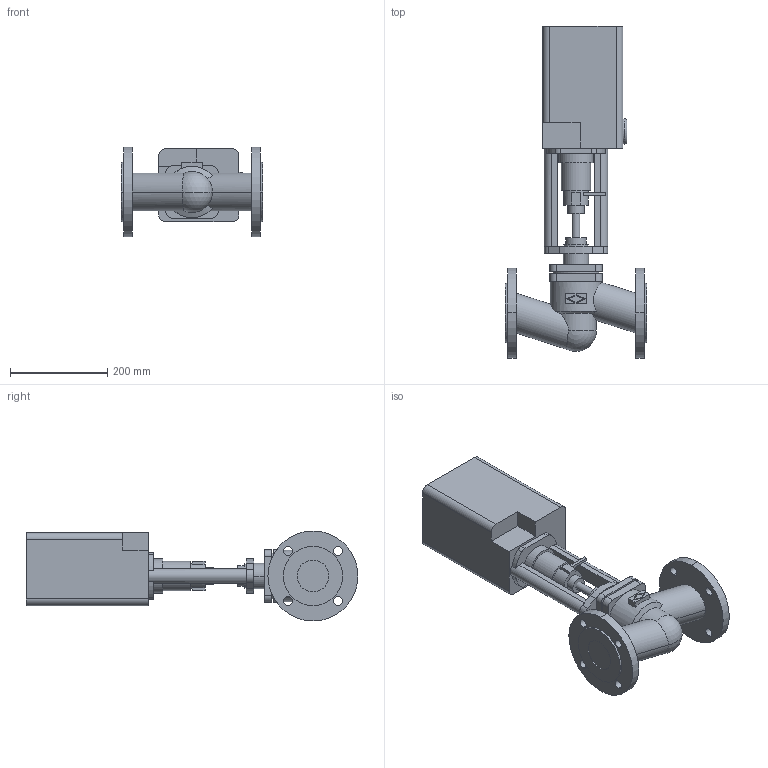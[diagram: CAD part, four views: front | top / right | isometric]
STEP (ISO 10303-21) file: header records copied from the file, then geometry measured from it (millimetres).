
FILE_DESCRIPTION(('OneSpaceDesigner STEP Export'),'2;1');
FILE_NAME('c000000352.stp','2005-02-16T11:35:55',(''),(''),'OneSpace Designer STEP processor (Jan. 2003) for AP203(Solid Model)','OneSpace Designer 12.01D 09-Jul-2004 (C) CoCreate Software GmbH','');
FILE_SCHEMA(('CONFIG_CONTROL_DESIGN'));
Length unit declared in the file: millimetre
Products named in the file (2): 1; 2
Bounding box: 290 x 682.5 x 185 mm (x, y, z)
Volume: 10082134.1 mm3; surface area: 533089.1 mm2
Topology: 2 solids, 2 shells, 174 faces, 442 edges, 293 vertices
Faces by surface type: plane 86, cylinder 82, cone 2, sphere 2, torus 2
Entity records: 5321 total; most frequent: CARTESIAN_POINT 1119, ORIENTED_EDGE 880, DIRECTION 778, EDGE_CURVE 440, VERTEX_POINT 293, AXIS2_PLACEMENT_3D 269, VECTOR 240, LINE 240
